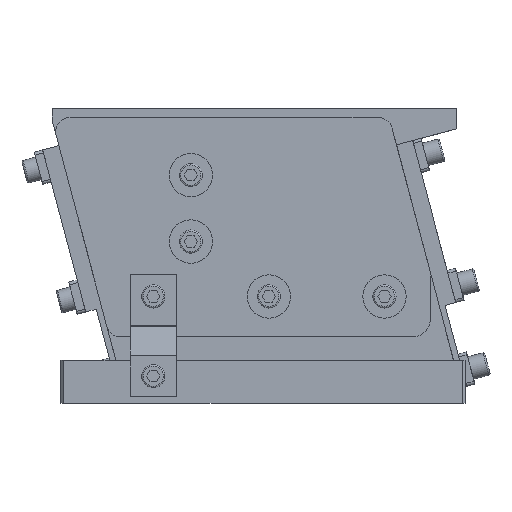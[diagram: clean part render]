
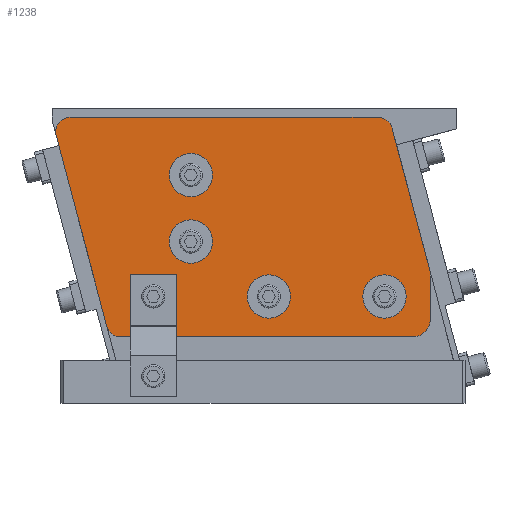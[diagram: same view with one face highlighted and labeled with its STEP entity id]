
A CAD part, front view. The second image highlights one B-rep face of the part: STEP entity #1238.
In plain terms, the highlighted planar face has unit normal (0, -1, 0).
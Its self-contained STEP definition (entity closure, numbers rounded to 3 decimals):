
#1238 = ADVANCED_FACE( '', ( #2662, #2663, #2664, #2665, #2666, #2667 ), #2668, .T. );
#2662 = FACE_OUTER_BOUND( '', #4151, .T. );
#2663 = FACE_BOUND( '', #4152, .T. );
#2664 = FACE_BOUND( '', #4153, .T. );
#2665 = FACE_BOUND( '', #4154, .T. );
#2666 = FACE_BOUND( '', #4155, .T. );
#2667 = FACE_BOUND( '', #4156, .T. );
#2668 = PLANE( '', #4157 );
#4151 = EDGE_LOOP( '', ( #7532, #7533, #7534, #7535, #7536, #7537, #7538, #7539, #7540 ) );
#4152 = EDGE_LOOP( '', ( #7541 ) );
#4153 = EDGE_LOOP( '', ( #7542 ) );
#4154 = EDGE_LOOP( '', ( #7543 ) );
#4155 = EDGE_LOOP( '', ( #7544 ) );
#4156 = EDGE_LOOP( '', ( #7545, #7546, #7547, #7548 ) );
#4157 = AXIS2_PLACEMENT_3D( '', #7549, #7550, #7551 );
#7532 = ORIENTED_EDGE( '', *, *, #8123, .T. );
#7533 = ORIENTED_EDGE( '', *, *, #9337, .T. );
#7534 = ORIENTED_EDGE( '', *, *, #9341, .T. );
#7535 = ORIENTED_EDGE( '', *, *, #8857, .T. );
#7536 = ORIENTED_EDGE( '', *, *, #9342, .T. );
#7537 = ORIENTED_EDGE( '', *, *, #8710, .T. );
#7538 = ORIENTED_EDGE( '', *, *, #9029, .T. );
#7539 = ORIENTED_EDGE( '', *, *, #9255, .T. );
#7540 = ORIENTED_EDGE( '', *, *, #8956, .T. );
#7541 = ORIENTED_EDGE( '', *, *, #8238, .F. );
#7542 = ORIENTED_EDGE( '', *, *, #9270, .F. );
#7543 = ORIENTED_EDGE( '', *, *, #8933, .F. );
#7544 = ORIENTED_EDGE( '', *, *, #9343, .F. );
#7545 = ORIENTED_EDGE( '', *, *, #9089, .F. );
#7546 = ORIENTED_EDGE( '', *, *, #8483, .T. );
#7547 = ORIENTED_EDGE( '', *, *, #9060, .T. );
#7548 = ORIENTED_EDGE( '', *, *, #9344, .F. );
#7549 = CARTESIAN_POINT( '', ( 28.282, -20.826, 66.813 ) );
#7550 = DIRECTION( '', ( 0., -1., 0. ) );
#7551 = DIRECTION( '', ( 0., 0., -1. ) );
#8123 = EDGE_CURVE( '', #9627, #9625, #9628, .T. );
#8238 = EDGE_CURVE( '', #9829, #9829, #9830, .T. );
#8483 = EDGE_CURVE( '', #10233, #10231, #10234, .T. );
#8710 = EDGE_CURVE( '', #10596, #10594, #10597, .T. );
#8857 = EDGE_CURVE( '', #10804, #10802, #10805, .T. );
#8933 = EDGE_CURVE( '', #10910, #10910, #10911, .T. );
#8956 = EDGE_CURVE( '', #10940, #9627, #10941, .T. );
#9029 = EDGE_CURVE( '', #10594, #11040, #11042, .T. );
#9060 = EDGE_CURVE( '', #10231, #11081, #11083, .T. );
#9089 = EDGE_CURVE( '', #10233, #11114, #11116, .T. );
#9255 = EDGE_CURVE( '', #11040, #10940, #11317, .T. );
#9270 = EDGE_CURVE( '', #11332, #11332, #11333, .T. );
#9337 = EDGE_CURVE( '', #9625, #11406, #11407, .T. );
#9341 = EDGE_CURVE( '', #11406, #10804, #11411, .T. );
#9342 = EDGE_CURVE( '', #10802, #10596, #11412, .T. );
#9343 = EDGE_CURVE( '', #11413, #11413, #11414, .T. );
#9344 = EDGE_CURVE( '', #11114, #11081, #11415, .T. );
#9625 = VERTEX_POINT( '', #11777 );
#9627 = VERTEX_POINT( '', #11780 );
#9628 = LINE( '', #11781, #11782 );
#9829 = VERTEX_POINT( '', #12048 );
#9830 = CIRCLE( '', #12049, 5.331 );
#10231 = VERTEX_POINT( '', #12579 );
#10233 = VERTEX_POINT( '', #12582 );
#10234 = LINE( '', #12583, #12584 );
#10594 = VERTEX_POINT( '', #13202 );
#10596 = VERTEX_POINT( '', #13205 );
#10597 = LINE( '', #13206, #13207 );
#10802 = VERTEX_POINT( '', #13492 );
#10804 = VERTEX_POINT( '', #13495 );
#10805 = LINE( '', #13496, #13497 );
#10910 = VERTEX_POINT( '', #13641 );
#10911 = CIRCLE( '', #13642, 5.331 );
#10940 = VERTEX_POINT( '', #13681 );
#10941 = CIRCLE( '', #13682, 3.554 );
#11040 = VERTEX_POINT( '', #13822 );
#11042 = CIRCLE( '', #13825, 3.554 );
#11081 = VERTEX_POINT( '', #13877 );
#11083 = LINE( '', #13880, #13881 );
#11114 = VERTEX_POINT( '', #13924 );
#11116 = LINE( '', #13927, #13928 );
#11317 = LINE( '', #14213, #14214 );
#11332 = VERTEX_POINT( '', #14234 );
#11333 = CIRCLE( '', #14235, 5.331 );
#11406 = VERTEX_POINT( '', #14336 );
#11407 = CIRCLE( '', #14337, 4.265 );
#11411 = LINE( '', #14342, #14343 );
#11412 = CIRCLE( '', #14344, 3.554 );
#11413 = VERTEX_POINT( '', #14345 );
#11414 = CIRCLE( '', #14346, 5.331 );
#11415 = LINE( '', #14347, #14348 );
#11777 = CARTESIAN_POINT( '', ( 36.835, -20.826, 16.348 ) );
#11780 = CARTESIAN_POINT( '', ( -35.022, -20.826, 16.348 ) );
#11781 = CARTESIAN_POINT( '', ( -35.022, -20.826, 16.348 ) );
#11782 = VECTOR( '', #14557, 1000. );
#12048 = CARTESIAN_POINT( '', ( 29.853, -20.826, 20.968 ) );
#12049 = AXIS2_PLACEMENT_3D( '', #14716, #14717, #14718 );
#12579 = CARTESIAN_POINT( '', ( -21.323, -20.826, 18.846 ) );
#12582 = CARTESIAN_POINT( '', ( -21.323, -20.826, 31.63 ) );
#12583 = CARTESIAN_POINT( '', ( -21.323, -20.826, 31.63 ) );
#12584 = VECTOR( '', #15011, 1000. );
#13202 = CARTESIAN_POINT( '', ( -47.457, -20.826, 70.367 ) );
#13205 = CARTESIAN_POINT( '', ( 28.282, -20.826, 70.367 ) );
#13206 = CARTESIAN_POINT( '', ( 28.282, -20.826, 70.367 ) );
#13207 = VECTOR( '', #15274, 1000. );
#13492 = CARTESIAN_POINT( '', ( 31.717, -20.826, 67.724 ) );
#13495 = CARTESIAN_POINT( '', ( 41.1, -20.826, 32.325 ) );
#13496 = CARTESIAN_POINT( '', ( 41.1, -20.826, 32.325 ) );
#13497 = VECTOR( '', #15434, 1000. );
#13641 = CARTESIAN_POINT( '', ( -17.77, -20.826, 34.473 ) );
#13642 = AXIS2_PLACEMENT_3D( '', #15519, #15520, #15521 );
#13681 = CARTESIAN_POINT( '', ( -38.458, -20.826, 18.991 ) );
#13682 = AXIS2_PLACEMENT_3D( '', #15541, #15542, #15543 );
#13822 = CARTESIAN_POINT( '', ( -50.892, -20.826, 65.903 ) );
#13825 = AXIS2_PLACEMENT_3D( '', #15607, #15608, #15609 );
#13877 = CARTESIAN_POINT( '', ( -32.696, -20.826, 18.846 ) );
#13880 = CARTESIAN_POINT( '', ( -21.323, -20.826, 18.846 ) );
#13881 = VECTOR( '', #15639, 1000. );
#13924 = CARTESIAN_POINT( '', ( -32.696, -20.826, 31.63 ) );
#13927 = CARTESIAN_POINT( '', ( -21.323, -20.826, 31.63 ) );
#13928 = VECTOR( '', #15656, 1000. );
#14213 = CARTESIAN_POINT( '', ( -50.892, -20.826, 65.903 ) );
#14214 = VECTOR( '', #15771, 1000. );
#14234 = CARTESIAN_POINT( '', ( -17.77, -20.826, 50.821 ) );
#14235 = AXIS2_PLACEMENT_3D( '', #15780, #15781, #15782 );
#14336 = CARTESIAN_POINT( '', ( 41.1, -20.826, 20.613 ) );
#14337 = AXIS2_PLACEMENT_3D( '', #15820, #15821, #15822 );
#14342 = CARTESIAN_POINT( '', ( 41.1, -20.826, 16.348 ) );
#14343 = VECTOR( '', #15824, 1000. );
#14344 = AXIS2_PLACEMENT_3D( '', #15825, #15826, #15827 );
#14345 = CARTESIAN_POINT( '', ( 1.422, -20.826, 20.968 ) );
#14346 = AXIS2_PLACEMENT_3D( '', #15828, #15829, #15830 );
#14347 = CARTESIAN_POINT( '', ( -32.696, -20.826, 31.63 ) );
#14348 = VECTOR( '', #15831, 1000. );
#14557 = DIRECTION( '', ( 1., 0., 0. ) );
#14716 = CARTESIAN_POINT( '', ( 29.853, -20.826, 26.299 ) );
#14717 = DIRECTION( '', ( 0., -1., 0. ) );
#14718 = DIRECTION( '', ( 0., 0., -1. ) );
#15011 = DIRECTION( '', ( 0., 0., -1. ) );
#15274 = DIRECTION( '', ( -1., 0., 0. ) );
#15434 = DIRECTION( '', ( -0.256, 0., 0.967 ) );
#15519 = CARTESIAN_POINT( '', ( -17.77, -20.826, 39.804 ) );
#15520 = DIRECTION( '', ( 0., -1., 0. ) );
#15521 = DIRECTION( '', ( 0., 0., -1. ) );
#15541 = CARTESIAN_POINT( '', ( -35.022, -20.826, 19.902 ) );
#15542 = DIRECTION( '', ( 0., -1., 0. ) );
#15543 = DIRECTION( '', ( -1., 0., 0. ) );
#15607 = CARTESIAN_POINT( '', ( -47.457, -20.826, 66.813 ) );
#15608 = DIRECTION( '', ( 0., -1., 0. ) );
#15609 = DIRECTION( '', ( 1., 0., 0. ) );
#15639 = DIRECTION( '', ( -1., 0., 0. ) );
#15656 = DIRECTION( '', ( -1., 0., 0. ) );
#15771 = DIRECTION( '', ( 0.256, 0., -0.967 ) );
#15780 = CARTESIAN_POINT( '', ( -17.77, -20.826, 56.152 ) );
#15781 = DIRECTION( '', ( 0., -1., 0. ) );
#15782 = DIRECTION( '', ( 0., 0., -1. ) );
#15820 = CARTESIAN_POINT( '', ( 36.835, -20.826, 20.613 ) );
#15821 = DIRECTION( '', ( 0., -1., 0. ) );
#15822 = DIRECTION( '', ( 0., 0., -1. ) );
#15824 = DIRECTION( '', ( 0., 0., 1. ) );
#15825 = CARTESIAN_POINT( '', ( 28.282, -20.826, 66.813 ) );
#15826 = DIRECTION( '', ( 0., -1., 0. ) );
#15827 = DIRECTION( '', ( -1., 0., 0. ) );
#15828 = CARTESIAN_POINT( '', ( 1.422, -20.826, 26.299 ) );
#15829 = DIRECTION( '', ( 0., -1., 0. ) );
#15830 = DIRECTION( '', ( 0., 0., -1. ) );
#15831 = DIRECTION( '', ( 0., 0., -1. ) );
